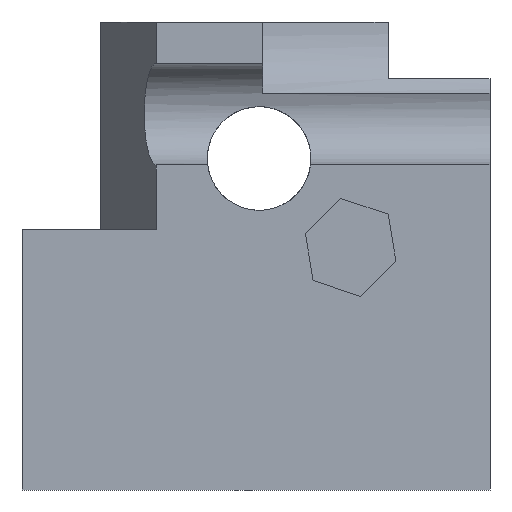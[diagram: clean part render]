
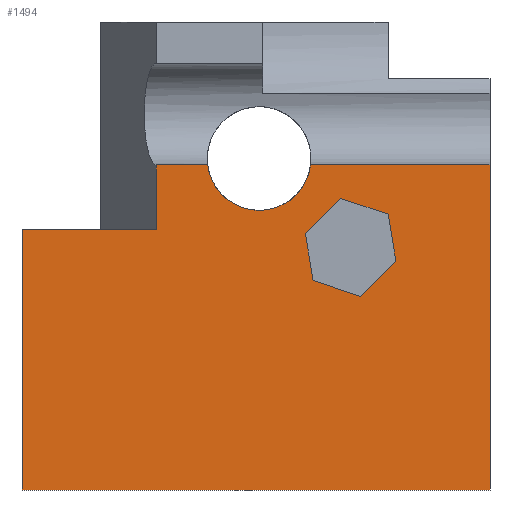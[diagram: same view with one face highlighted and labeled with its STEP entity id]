
A CAD part, front view. The second image highlights one B-rep face of the part: STEP entity #1494.
In plain terms, the highlighted planar face has unit normal (0, -1, 0).
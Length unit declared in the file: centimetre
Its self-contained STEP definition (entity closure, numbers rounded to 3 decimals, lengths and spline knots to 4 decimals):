
#17 = DIRECTION ( 'NONE',  ( 0.707, 0., 0.707 ) ) ;
#68 = CARTESIAN_POINT ( 'NONE',  ( 782.4604, 0., 589.0885 ) ) ;
#85 = CARTESIAN_POINT ( 'NONE',  ( 798.9201, 0., 488.9745 ) ) ;
#92 = CARTESIAN_POINT ( 'NONE',  ( 506.6875, 0., 597.4668 ) ) ;
#103 = CARTESIAN_POINT ( 'NONE',  ( 1000., 0., 694.4966 ) ) ;
#127 = EDGE_CURVE ( 'NONE', #1370, #1037, #1405, .T. ) ;
#130 = ORIENTED_EDGE ( 'NONE', *, *, #1447, .F. ) ;
#132 = VECTOR ( 'NONE', #1209, 100. ) ;
#141 = CARTESIAN_POINT ( 'NONE',  ( 0., 0., 1000. ) ) ;
#153 = VECTOR ( 'NONE', #1588, 100. ) ;
#190 = LINE ( 'NONE', #68, #1714 ) ;
#196 = DIRECTION ( 'NONE',  ( 0., 0., 1. ) ) ;
#215 = VECTOR ( 'NONE', #1338, 100. ) ;
#221 = PLANE ( 'NONE',  #2127 ) ;
#239 = CARTESIAN_POINT ( 'NONE',  ( 723.4409, 0., 413.4954 ) ) ;
#293 = CARTESIAN_POINT ( 'NONE',  ( 0., 0., 0. ) ) ;
#297 = AXIS2_PLACEMENT_3D ( 'NONE', #2021, #1291, #196 ) ;
#324 = LINE ( 'NONE', #549, #1504 ) ;
#341 = VERTEX_POINT ( 'NONE', #2299 ) ;
#344 = EDGE_LOOP ( 'NONE', ( #1794, #404, #1336, #1501, #1438, #485, #2108, #763, #1872 ) ) ;
#345 = EDGE_CURVE ( 'NONE', #1241, #1343, #1770, .T. ) ;
#363 = VECTOR ( 'NONE', #2242, 100. ) ;
#372 = EDGE_LOOP ( 'NONE', ( #1434, #2122, #130, #1547, #953, #1151 ) ) ;
#381 = DIRECTION ( 'NONE',  ( 0., 0., 1. ) ) ;
#393 = DIRECTION ( 'NONE',  ( 0., 0., -1. ) ) ;
#404 = ORIENTED_EDGE ( 'NONE', *, *, #623, .T. ) ;
#416 = LINE ( 'NONE', #608, #215 ) ;
#451 = AXIS2_PLACEMENT_3D ( 'NONE', #2011, #767, #2207 ) ;
#452 = CARTESIAN_POINT ( 'NONE',  ( 605.6026, 0., 547.6843 ) ) ;
#460 = DIRECTION ( 'NONE',  ( 0., 0., 1. ) ) ;
#485 = ORIENTED_EDGE ( 'NONE', *, *, #956, .F. ) ;
#489 = VERTEX_POINT ( 'NONE', #680 ) ;
#494 = VECTOR ( 'NONE', #17, 100. ) ;
#507 = CARTESIAN_POINT ( 'NONE',  ( 0., 0., 1000. ) ) ;
#523 = VECTOR ( 'NONE', #1367, 100. ) ;
#549 = CARTESIAN_POINT ( 'NONE',  ( 1000., 0., 1000. ) ) ;
#572 = EDGE_CURVE ( 'NONE', #489, #1235, #720, .T. ) ;
#608 = CARTESIAN_POINT ( 'NONE',  ( 0., 0., 694.4966 ) ) ;
#623 = EDGE_CURVE ( 'NONE', #775, #1370, #1463, .T. ) ;
#631 = VERTEX_POINT ( 'NONE', #719 ) ;
#680 = CARTESIAN_POINT ( 'NONE',  ( 622.0622, 0., 447.5703 ) ) ;
#706 = VERTEX_POINT ( 'NONE', #2064 ) ;
#719 = CARTESIAN_POINT ( 'NONE',  ( 287.1179, 0., 556.6895 ) ) ;
#720 = LINE ( 'NONE', #2141, #2093 ) ;
#743 = DIRECTION ( 'NONE',  ( -1., 0., 0. ) ) ;
#763 = ORIENTED_EDGE ( 'NONE', *, *, #2095, .T. ) ;
#767 = DIRECTION ( 'NONE',  ( 0., 1., 0. ) ) ;
#775 = VERTEX_POINT ( 'NONE', #103 ) ;
#798 = DIRECTION ( 'NONE',  ( -0.948, 0., 0.319 ) ) ;
#846 = LINE ( 'NONE', #507, #153 ) ;
#854 = VERTEX_POINT ( 'NONE', #1196 ) ;
#921 = EDGE_CURVE ( 'NONE', #1694, #1174, #1919, .T. ) ;
#953 = ORIENTED_EDGE ( 'NONE', *, *, #1910, .F. ) ;
#956 = EDGE_CURVE ( 'NONE', #631, #1660, #1753, .T. ) ;
#978 = CARTESIAN_POINT ( 'NONE',  ( 616.6137, 0., 694.4966 ) ) ;
#992 = LINE ( 'NONE', #1725, #523 ) ;
#1037 = VERTEX_POINT ( 'NONE', #92 ) ;
#1076 = EDGE_CURVE ( 'NONE', #341, #631, #992, .T. ) ;
#1087 = CARTESIAN_POINT ( 'NONE',  ( 0., 0., 694.4966 ) ) ;
#1131 = FACE_OUTER_BOUND ( 'NONE', #344, .T. ) ;
#1145 = EDGE_CURVE ( 'NONE', #1037, #854, #2124, .T. ) ;
#1151 = ORIENTED_EDGE ( 'NONE', *, *, #921, .F. ) ;
#1161 = VECTOR ( 'NONE', #1884, 100. ) ;
#1163 = CARTESIAN_POINT ( 'NONE',  ( 287.1179, 0., 556.6895 ) ) ;
#1174 = VERTEX_POINT ( 'NONE', #2007 ) ;
#1196 = CARTESIAN_POINT ( 'NONE',  ( 396.7614, 0., 694.4966 ) ) ;
#1209 = DIRECTION ( 'NONE',  ( -0.162, 0., 0.987 ) ) ;
#1216 = VECTOR ( 'NONE', #2053, 100. ) ;
#1235 = VERTEX_POINT ( 'NONE', #239 ) ;
#1241 = VERTEX_POINT ( 'NONE', #1330 ) ;
#1269 = EDGE_CURVE ( 'NONE', #854, #1660, #416, .T. ) ;
#1291 = DIRECTION ( 'NONE',  ( 0., 1., 0. ) ) ;
#1318 = EDGE_CURVE ( 'NONE', #2083, #706, #1683, .T. ) ;
#1330 = CARTESIAN_POINT ( 'NONE',  ( 798.9201, 0., 488.9745 ) ) ;
#1336 = ORIENTED_EDGE ( 'NONE', *, *, #127, .T. ) ;
#1338 = DIRECTION ( 'NONE',  ( -1., 0., 0. ) ) ;
#1343 = VERTEX_POINT ( 'NONE', #1515 ) ;
#1365 = LINE ( 'NONE', #452, #1161 ) ;
#1367 = DIRECTION ( 'NONE',  ( 1., 0., 0. ) ) ;
#1370 = VERTEX_POINT ( 'NONE', #978 ) ;
#1405 = CIRCLE ( 'NONE', #451, 110.7832 ) ;
#1433 = EDGE_CURVE ( 'NONE', #1343, #1694, #190, .T. ) ;
#1434 = ORIENTED_EDGE ( 'NONE', *, *, #1433, .F. ) ;
#1438 = ORIENTED_EDGE ( 'NONE', *, *, #1269, .T. ) ;
#1447 = EDGE_CURVE ( 'NONE', #1235, #1241, #1863, .T. ) ;
#1452 = DIRECTION ( 'NONE',  ( 0.948, 0., -0.319 ) ) ;
#1463 = LINE ( 'NONE', #1087, #2310 ) ;
#1490 = FACE_BOUND ( 'NONE', #372, .T. ) ;
#1494 = ADVANCED_FACE ( 'NONE', ( #1490, #1131 ), #221, .F. ) ;
#1501 = ORIENTED_EDGE ( 'NONE', *, *, #1145, .T. ) ;
#1504 = VECTOR ( 'NONE', #393, 100. ) ;
#1515 = CARTESIAN_POINT ( 'NONE',  ( 782.4604, 0., 589.0885 ) ) ;
#1547 = ORIENTED_EDGE ( 'NONE', *, *, #572, .F. ) ;
#1588 = DIRECTION ( 'NONE',  ( 0., 0., -1. ) ) ;
#1640 = EDGE_CURVE ( 'NONE', #775, #706, #324, .T. ) ;
#1656 = CARTESIAN_POINT ( 'NONE',  ( 723.4409, 0., 413.4954 ) ) ;
#1660 = VERTEX_POINT ( 'NONE', #2045 ) ;
#1683 = LINE ( 'NONE', #1886, #1216 ) ;
#1694 = VERTEX_POINT ( 'NONE', #1788 ) ;
#1714 = VECTOR ( 'NONE', #798, 100. ) ;
#1725 = CARTESIAN_POINT ( 'NONE',  ( 287.1179, 0., 556.6895 ) ) ;
#1741 = CARTESIAN_POINT ( 'NONE',  ( 681.0817, 0., 623.1634 ) ) ;
#1753 = LINE ( 'NONE', #1163, #1819 ) ;
#1770 = LINE ( 'NONE', #85, #132 ) ;
#1788 = CARTESIAN_POINT ( 'NONE',  ( 681.0817, 0., 623.1634 ) ) ;
#1794 = ORIENTED_EDGE ( 'NONE', *, *, #1640, .F. ) ;
#1819 = VECTOR ( 'NONE', #460, 100. ) ;
#1863 = LINE ( 'NONE', #1656, #494 ) ;
#1872 = ORIENTED_EDGE ( 'NONE', *, *, #1318, .T. ) ;
#1884 = DIRECTION ( 'NONE',  ( 0.162, 0., -0.987 ) ) ;
#1886 = CARTESIAN_POINT ( 'NONE',  ( 0., 0., 0. ) ) ;
#1910 = EDGE_CURVE ( 'NONE', #1174, #489, #1365, .T. ) ;
#1919 = LINE ( 'NONE', #1741, #363 ) ;
#2007 = CARTESIAN_POINT ( 'NONE',  ( 605.6026, 0., 547.6843 ) ) ;
#2011 = CARTESIAN_POINT ( 'NONE',  ( 506.6875, 0., 708.25 ) ) ;
#2021 = CARTESIAN_POINT ( 'NONE',  ( 506.6875, 0., 708.25 ) ) ;
#2045 = CARTESIAN_POINT ( 'NONE',  ( 287.1179, 0., 694.4966 ) ) ;
#2053 = DIRECTION ( 'NONE',  ( 1., 0., 0. ) ) ;
#2064 = CARTESIAN_POINT ( 'NONE',  ( 1000., 0., 0. ) ) ;
#2083 = VERTEX_POINT ( 'NONE', #293 ) ;
#2093 = VECTOR ( 'NONE', #1452, 100. ) ;
#2095 = EDGE_CURVE ( 'NONE', #341, #2083, #846, .T. ) ;
#2108 = ORIENTED_EDGE ( 'NONE', *, *, #1076, .F. ) ;
#2122 = ORIENTED_EDGE ( 'NONE', *, *, #345, .F. ) ;
#2124 = CIRCLE ( 'NONE', #297, 110.7832 ) ;
#2127 = AXIS2_PLACEMENT_3D ( 'NONE', #141, #2217, #381 ) ;
#2141 = CARTESIAN_POINT ( 'NONE',  ( 622.0622, 0., 447.5703 ) ) ;
#2207 = DIRECTION ( 'NONE',  ( 0., 0., 1. ) ) ;
#2217 = DIRECTION ( 'NONE',  ( 0., 1., 0. ) ) ;
#2242 = DIRECTION ( 'NONE',  ( -0.707, 0., -0.707 ) ) ;
#2299 = CARTESIAN_POINT ( 'NONE',  ( 0., 0., 556.6895 ) ) ;
#2310 = VECTOR ( 'NONE', #743, 100. ) ;
